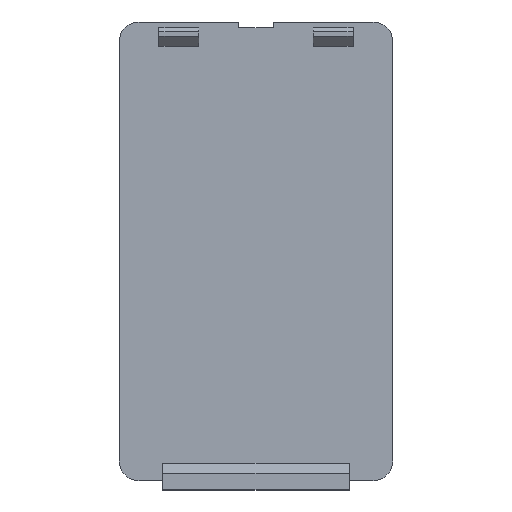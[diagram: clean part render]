
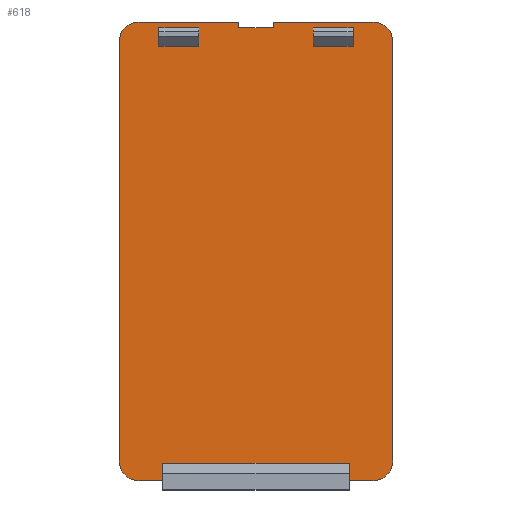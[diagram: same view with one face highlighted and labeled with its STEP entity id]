
A CAD part, top view. The second image highlights one B-rep face of the part: STEP entity #618.
In plain terms, the highlighted planar face has unit normal (0, 0, 1).
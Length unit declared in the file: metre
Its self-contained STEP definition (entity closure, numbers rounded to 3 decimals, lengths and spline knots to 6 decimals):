
#16=CIRCLE('',#666,0.005);
#17=CIRCLE('',#667,0.005);
#18=CIRCLE('',#668,0.005);
#19=CIRCLE('',#669,0.005);
#28=ORIENTED_EDGE('',*,*,#203,.F.);
#29=ORIENTED_EDGE('',*,*,#206,.T.);
#30=ORIENTED_EDGE('',*,*,#207,.T.);
#31=ORIENTED_EDGE('',*,*,#208,.F.);
#32=ORIENTED_EDGE('',*,*,#209,.T.);
#33=ORIENTED_EDGE('',*,*,#210,.T.);
#34=ORIENTED_EDGE('',*,*,#211,.F.);
#35=ORIENTED_EDGE('',*,*,#212,.T.);
#36=ORIENTED_EDGE('',*,*,#213,.T.);
#37=ORIENTED_EDGE('',*,*,#214,.F.);
#38=ORIENTED_EDGE('',*,*,#215,.F.);
#39=ORIENTED_EDGE('',*,*,#216,.T.);
#40=ORIENTED_EDGE('',*,*,#217,.T.);
#41=ORIENTED_EDGE('',*,*,#218,.T.);
#42=ORIENTED_EDGE('',*,*,#219,.T.);
#43=ORIENTED_EDGE('',*,*,#220,.T.);
#44=ORIENTED_EDGE('',*,*,#221,.T.);
#45=ORIENTED_EDGE('',*,*,#222,.T.);
#46=ORIENTED_EDGE('',*,*,#223,.T.);
#47=ORIENTED_EDGE('',*,*,#224,.T.);
#48=ORIENTED_EDGE('',*,*,#225,.T.);
#49=ORIENTED_EDGE('',*,*,#226,.T.);
#50=ORIENTED_EDGE('',*,*,#227,.T.);
#51=ORIENTED_EDGE('',*,*,#228,.T.);
#203=EDGE_CURVE('',#292,#293,#352,.T.);
#206=EDGE_CURVE('',#292,#295,#355,.T.);
#207=EDGE_CURVE('',#295,#296,#356,.T.);
#208=EDGE_CURVE('',#293,#296,#357,.T.);
#209=EDGE_CURVE('',#297,#298,#358,.T.);
#210=EDGE_CURVE('',#298,#299,#359,.T.);
#211=EDGE_CURVE('',#300,#299,#360,.T.);
#212=EDGE_CURVE('',#300,#297,#361,.T.);
#213=EDGE_CURVE('',#301,#302,#362,.T.);
#214=EDGE_CURVE('',#303,#302,#363,.T.);
#215=EDGE_CURVE('',#304,#303,#364,.T.);
#216=EDGE_CURVE('',#304,#301,#365,.T.);
#217=EDGE_CURVE('',#305,#306,#16,.F.);
#218=EDGE_CURVE('',#306,#307,#366,.T.);
#219=EDGE_CURVE('',#307,#308,#17,.F.);
#220=EDGE_CURVE('',#308,#309,#367,.T.);
#221=EDGE_CURVE('',#309,#310,#368,.T.);
#222=EDGE_CURVE('',#310,#311,#369,.T.);
#223=EDGE_CURVE('',#311,#312,#370,.T.);
#224=EDGE_CURVE('',#312,#313,#371,.T.);
#225=EDGE_CURVE('',#313,#314,#18,.F.);
#226=EDGE_CURVE('',#314,#315,#372,.T.);
#227=EDGE_CURVE('',#315,#316,#19,.F.);
#228=EDGE_CURVE('',#316,#305,#373,.T.);
#292=VERTEX_POINT('',#877);
#293=VERTEX_POINT('',#879);
#295=VERTEX_POINT('',#885);
#296=VERTEX_POINT('',#887);
#297=VERTEX_POINT('',#890);
#298=VERTEX_POINT('',#891);
#299=VERTEX_POINT('',#893);
#300=VERTEX_POINT('',#895);
#301=VERTEX_POINT('',#898);
#302=VERTEX_POINT('',#899);
#303=VERTEX_POINT('',#901);
#304=VERTEX_POINT('',#903);
#305=VERTEX_POINT('',#906);
#306=VERTEX_POINT('',#907);
#307=VERTEX_POINT('',#909);
#308=VERTEX_POINT('',#911);
#309=VERTEX_POINT('',#913);
#310=VERTEX_POINT('',#915);
#311=VERTEX_POINT('',#917);
#312=VERTEX_POINT('',#919);
#313=VERTEX_POINT('',#921);
#314=VERTEX_POINT('',#923);
#315=VERTEX_POINT('',#925);
#316=VERTEX_POINT('',#927);
#352=LINE('',#878,#433);
#355=LINE('',#884,#436);
#356=LINE('',#886,#437);
#357=LINE('',#888,#438);
#358=LINE('',#889,#439);
#359=LINE('',#892,#440);
#360=LINE('',#894,#441);
#361=LINE('',#896,#442);
#362=LINE('',#897,#443);
#363=LINE('',#900,#444);
#364=LINE('',#902,#445);
#365=LINE('',#904,#446);
#366=LINE('',#908,#447);
#367=LINE('',#912,#448);
#368=LINE('',#914,#449);
#369=LINE('',#916,#450);
#370=LINE('',#918,#451);
#371=LINE('',#920,#452);
#372=LINE('',#924,#453);
#373=LINE('',#928,#454);
#433=VECTOR('',#711,1.);
#436=VECTOR('',#716,1.);
#437=VECTOR('',#717,1.);
#438=VECTOR('',#718,1.);
#439=VECTOR('',#719,1.);
#440=VECTOR('',#720,1.);
#441=VECTOR('',#721,1.);
#442=VECTOR('',#722,1.);
#443=VECTOR('',#723,1.);
#444=VECTOR('',#724,1.);
#445=VECTOR('',#725,1.);
#446=VECTOR('',#726,1.);
#447=VECTOR('',#729,1.);
#448=VECTOR('',#732,1.);
#449=VECTOR('',#733,1.);
#450=VECTOR('',#734,1.);
#451=VECTOR('',#735,1.);
#452=VECTOR('',#736,1.);
#453=VECTOR('',#739,1.);
#454=VECTOR('',#742,1.);
#514=EDGE_LOOP('',(#28,#29,#30,#31));
#515=EDGE_LOOP('',(#32,#33,#34,#35));
#516=EDGE_LOOP('',(#36,#37,#38,#39));
#517=EDGE_LOOP('',(#40,#41,#42,#43,#44,#45,#46,#47,#48,#49,#50,#51));
#551=FACE_BOUND('',#514,.T.);
#552=FACE_BOUND('',#515,.T.);
#553=FACE_BOUND('',#516,.T.);
#554=FACE_BOUND('',#517,.T.);
#588=PLANE('',#665);
#618=ADVANCED_FACE('',(#551,#552,#553,#554),#588,.F.);
#665=AXIS2_PLACEMENT_3D('',#883,#714,#715);
#666=AXIS2_PLACEMENT_3D('',#905,#727,#728);
#667=AXIS2_PLACEMENT_3D('',#910,#730,#731);
#668=AXIS2_PLACEMENT_3D('',#922,#737,#738);
#669=AXIS2_PLACEMENT_3D('',#926,#740,#741);
#711=DIRECTION('',(1.,0.,0.));
#714=DIRECTION('',(0.,0.,-1.));
#715=DIRECTION('',(-1.,0.,0.));
#716=DIRECTION('',(0.,1.,0.));
#717=DIRECTION('',(1.,0.,0.));
#718=DIRECTION('',(0.,1.,0.));
#719=DIRECTION('',(0.,1.,0.));
#720=DIRECTION('',(1.,0.,0.));
#721=DIRECTION('',(0.,1.,0.));
#722=DIRECTION('',(-1.,0.,0.));
#723=DIRECTION('',(0.,1.,0.));
#724=DIRECTION('',(-1.,0.,0.));
#725=DIRECTION('',(0.,1.,0.));
#726=DIRECTION('',(-1.,0.,0.));
#727=DIRECTION('',(0.,0.,-1.));
#728=DIRECTION('',(-1.,0.,0.));
#729=DIRECTION('',(0.,1.,0.));
#730=DIRECTION('',(0.,0.,-1.));
#731=DIRECTION('',(-1.,0.,0.));
#732=DIRECTION('',(-1.,0.,0.));
#733=DIRECTION('',(0.,-1.,0.));
#734=DIRECTION('',(-1.,0.,0.));
#735=DIRECTION('',(0.,1.,0.));
#736=DIRECTION('',(-1.,0.,0.));
#737=DIRECTION('',(0.,0.,-1.));
#738=DIRECTION('',(-1.,0.,0.));
#739=DIRECTION('',(0.,-1.,0.));
#740=DIRECTION('',(0.,0.,-1.));
#741=DIRECTION('',(-1.,0.,0.));
#742=DIRECTION('',(1.,0.,0.));
#877=CARTESIAN_POINT('',(0.1695,-0.06895,-0.01875));
#878=CARTESIAN_POINT('',(0.1945,-0.06895,-0.01875));
#879=CARTESIAN_POINT('',(0.2165,-0.06895,-0.01875));
#883=CARTESIAN_POINT('',(0.1945,-0.011225,-0.01875));
#884=CARTESIAN_POINT('',(0.1695,-0.06795,-0.01875));
#885=CARTESIAN_POINT('',(0.1695,-0.06475,-0.01875));
#886=CARTESIAN_POINT('',(0.1945,-0.06475,-0.01875));
#887=CARTESIAN_POINT('',(0.2165,-0.06475,-0.01875));
#888=CARTESIAN_POINT('',(0.2165,-0.06795,-0.01875));
#889=CARTESIAN_POINT('',(0.1685,0.044,-0.01875));
#890=CARTESIAN_POINT('',(0.1685,0.0405,-0.01875));
#891=CARTESIAN_POINT('',(0.1685,0.04515,-0.01875));
#892=CARTESIAN_POINT('',(0.1735,0.04515,-0.01875));
#893=CARTESIAN_POINT('',(0.1785,0.04515,-0.01875));
#894=CARTESIAN_POINT('',(0.1785,0.044,-0.01875));
#895=CARTESIAN_POINT('',(0.1785,0.0405,-0.01875));
#896=CARTESIAN_POINT('',(0.1685,0.0405,-0.01875));
#897=CARTESIAN_POINT('',(0.2075,0.044,-0.01875));
#898=CARTESIAN_POINT('',(0.2075,0.0405,-0.01875));
#899=CARTESIAN_POINT('',(0.2075,0.04515,-0.01875));
#900=CARTESIAN_POINT('',(0.2125,0.04515,-0.01875));
#901=CARTESIAN_POINT('',(0.2175,0.04515,-0.01875));
#902=CARTESIAN_POINT('',(0.2175,0.044,-0.01875));
#903=CARTESIAN_POINT('',(0.2175,0.0405,-0.01875));
#904=CARTESIAN_POINT('',(0.1945,0.0405,-0.01875));
#905=CARTESIAN_POINT('',(0.2225,-0.0641,-0.01875));
#906=CARTESIAN_POINT('',(0.2225,-0.0691,-0.01875));
#907=CARTESIAN_POINT('',(0.2275,-0.0641,-0.01875));
#908=CARTESIAN_POINT('',(0.2275,-0.011225,-0.01875));
#909=CARTESIAN_POINT('',(0.2275,0.04165,-0.01875));
#910=CARTESIAN_POINT('',(0.2225,0.04165,-0.01875));
#911=CARTESIAN_POINT('',(0.2225,0.04665,-0.01875));
#912=CARTESIAN_POINT('',(0.209925,0.04665,-0.01875));
#913=CARTESIAN_POINT('',(0.19735,0.04665,-0.01875));
#914=CARTESIAN_POINT('',(0.19735,0.0459,-0.01875));
#915=CARTESIAN_POINT('',(0.19735,0.04515,-0.01875));
#916=CARTESIAN_POINT('',(0.193,0.04515,-0.01875));
#917=CARTESIAN_POINT('',(0.18865,0.04515,-0.01875));
#918=CARTESIAN_POINT('',(0.18865,0.0459,-0.01875));
#919=CARTESIAN_POINT('',(0.18865,0.04665,-0.01875));
#920=CARTESIAN_POINT('',(0.176075,0.04665,-0.01875));
#921=CARTESIAN_POINT('',(0.1635,0.04665,-0.01875));
#922=CARTESIAN_POINT('',(0.1635,0.04165,-0.01875));
#923=CARTESIAN_POINT('',(0.1585,0.04165,-0.01875));
#924=CARTESIAN_POINT('',(0.1585,-0.011225,-0.01875));
#925=CARTESIAN_POINT('',(0.1585,-0.0641,-0.01875));
#926=CARTESIAN_POINT('',(0.1635,-0.0641,-0.01875));
#927=CARTESIAN_POINT('',(0.1635,-0.0691,-0.01875));
#928=CARTESIAN_POINT('',(0.193,-0.0691,-0.01875));
